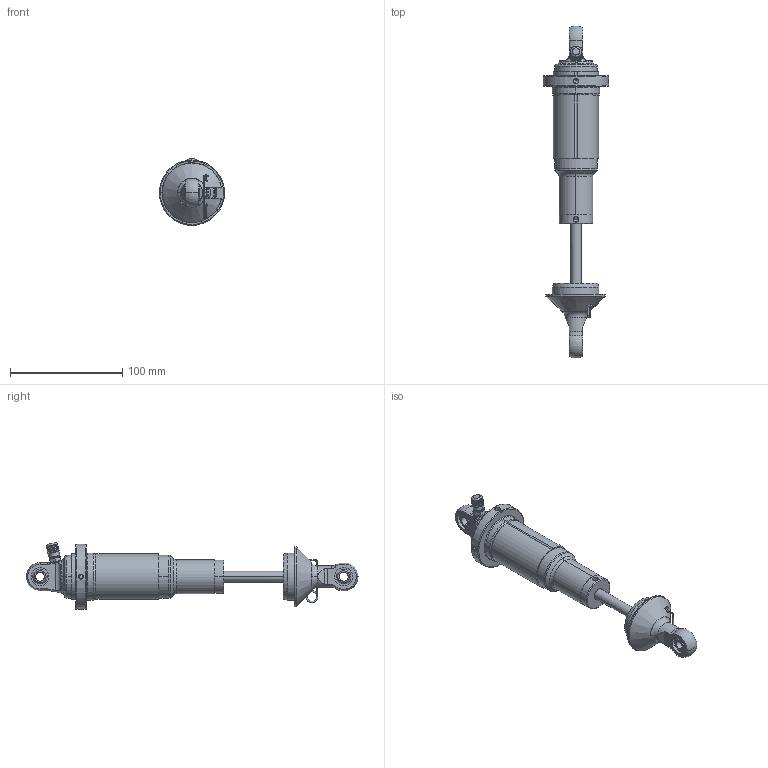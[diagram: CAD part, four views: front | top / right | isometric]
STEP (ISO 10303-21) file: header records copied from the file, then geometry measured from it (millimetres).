
FILE_DESCRIPTION((''),'2;1');
FILE_NAME('PS_7800NA','2010-05-10T',('Reedgr'),(''),'PRO/ENGINEER BY PARAMETRIC TECHNOLOGY CORPORATION, 2008090','PRO/ENGINEER BY PARAMETRIC TECHNOLOGY CORPORATION, 2008090','');
FILE_SCHEMA(('CONFIG_CONTROL_DESIGN'));
Length unit declared in the file: inch
Products named in the file (1): PS_7800NA
Bounding box: 58.08 x 295.27 x 59.26 mm (x, y, z)
Surface area: 42770.4 mm2 (no closed solid volume)
Topology: 0 solids, 16 shells, 423 faces, 1418 edges, 903 vertices
Faces by surface type: cylinder 204, plane 93, torus 74, cone 36, sphere 12, bspline 4
Entity records: 17504 total; most frequent: CARTESIAN_POINT 5945, DIRECTION 2376, ORIENTED_EDGE 2217, EDGE_CURVE 1406, AXIS2_PLACEMENT_3D 949, VERTEX_POINT 903, CIRCLE 530, VECTOR 478
